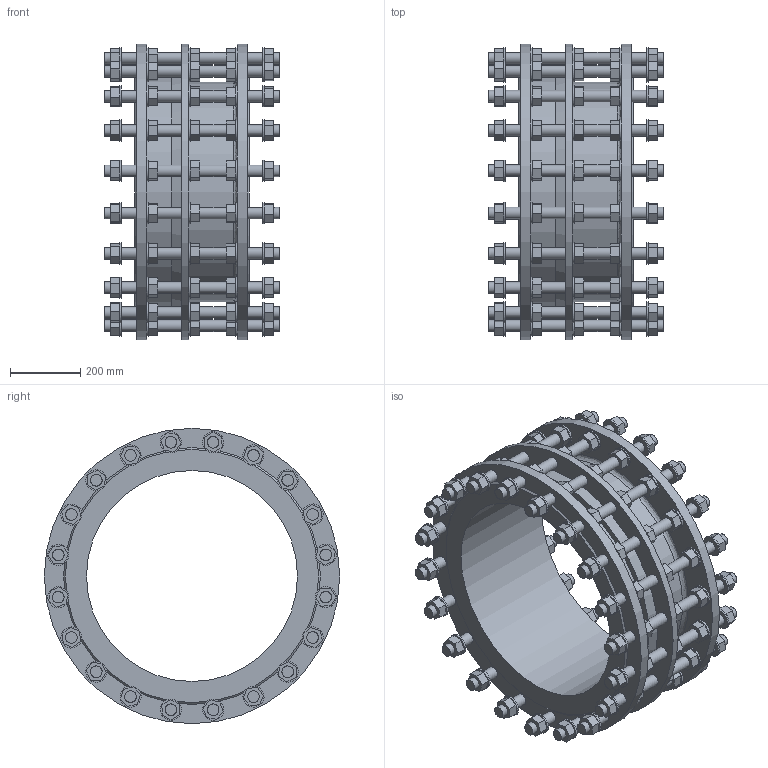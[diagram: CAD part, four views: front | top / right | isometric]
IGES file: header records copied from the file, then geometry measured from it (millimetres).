
Start section: SolidWorks IGES file using analytic representation for surfaces
Global section: file name: \\avksan2\techshare\PBM outline export from Enovia\O_265_910_DN600_1XXXXX00_L=325_REV01.igs; native system: SolidWorks 2022; preprocessor: SolidWorks 2022; author: pbm; date: 241011.124418; units: millimetre
Bounding box: 500 x 840 x 840 mm (x, y, z)
Surface area: 3928548.8 mm2 (no closed solid volume)
Topology: 0 solids, 0 shells, 1160 faces, 5120 edges, 4890 vertices
Faces by surface type: bspline 928, revolution 232
